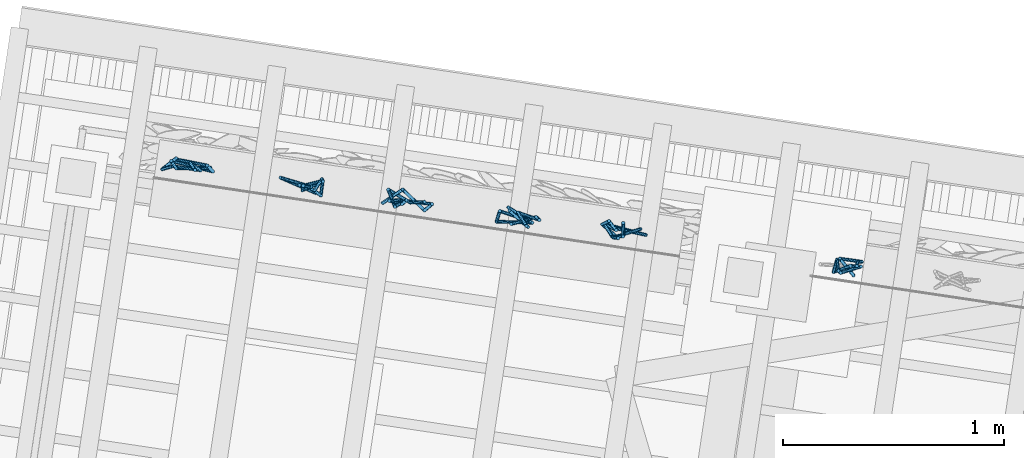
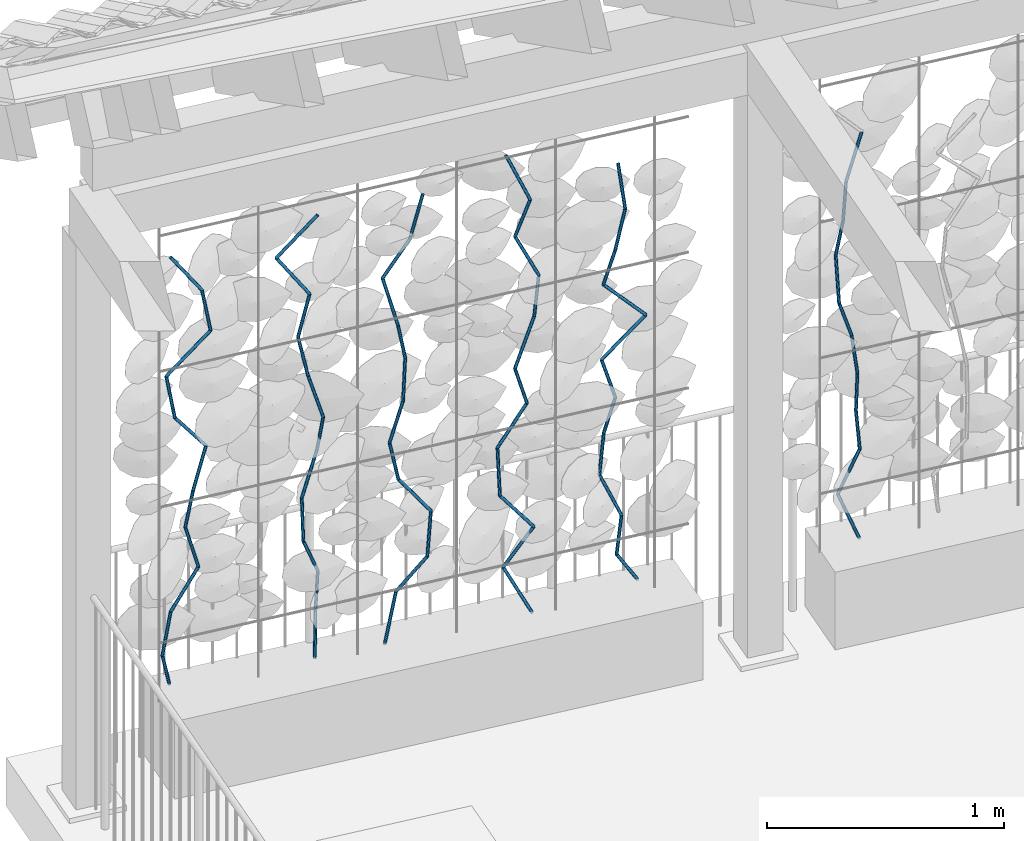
# One storey, part 107 of 131: 65 members, 1 element without a shape of its own.
"""IFC4 building model written with IfcOpenShell, lengths in metres."""

from ifc_helpers import new_model, si_unit, direction, frame, origin_with_axes, place, context, subcontext, project, spatial, circle, extrude, material, material_profile, profile_set, profile_usage, type_object, element, aggregate, save


model = new_model("IFC4")

# Units and contexts
model_context = context("Model", 3, precision=1e-05, world=origin_with_axes(), true_north=direction((0.0, 1.0)))
body_context = subcontext(model_context, "Body", "Model", "MODEL_VIEW")
ifc_project = project(units=[si_unit("VOLUMEUNIT", "CUBIC_METRE"), si_unit("LENGTHUNIT", "METRE"), si_unit("AREAUNIT", "SQUARE_METRE")], contexts=[model_context])

# Site, building, storey
site_placement = place(None, origin_with_axes())
site = spatial("IfcSite", under=ifc_project, at=site_placement, Name="Lares · Rua das Mercês · artigo 4771")
building_placement = place(site_placement, frame((15.0, 9.7, 14.65), z_axis=(0.0, 0.0, 1.0), x_axis=(0.989015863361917, -0.147809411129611, 0.0)))
building = spatial("IfcBuilding", under=site, at=building_placement, Name="Casa Sobreposta")
storey_placement = place(building_placement, origin_with_axes())
storey = spatial("IfcBuildingStorey", under=building, at=storey_placement, Name="00 · Habitação e estacionamento", Elevation=14.65)

# Assembly, members
assembly_placement = place(storey_placement, origin_with_axes())
assembly = element("IfcElementAssembly", 1, at=assembly_placement, inside=storey, Name="Fachada sul e pátio · estrutura e trepadeiras", ObjectType="LIVING_SHADE_TRELLIS", PredefinedType="USERDEFINED")
ifc_material = material(Name="Ramos de trepadeiras", Category="wood")
ifc_material_profile = material_profile(ifc_material, circle(Radius=0.0075))
ifc_profile_set = profile_set([ifc_material_profile], Name="D0.015")
ifc_profile_usage_1 = profile_usage(ifc_profile_set)
member_type = type_object("IfcMemberType", Name="D0.015 / vine_wood", PredefinedType="NOTDEFINED", material=ifc_profile_set)
member_1_placement = place(assembly_placement, frame((-5.61411857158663, 6.58271123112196, 0.35), z_axis=(-0.25595310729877, -0.272623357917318, 0.927450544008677), x_axis=(-0.729045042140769, 0.68446572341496, 0.0)))
member_1 = element("IfcMember", 2, at=member_1_placement, type_object=member_type, material=ifc_profile_usage_1, Name="Trepadeiras · ramo", context=body_context, shape_type="SweptSolid", body=[
    extrude(circle(Radius=0.0075), origin_with_axes(), (0.0, 0.0, 1.0), 0.216077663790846),
])
ifc_profile_usage_2 = profile_usage(ifc_profile_set)
member_2_placement = place(assembly_placement, frame((-5.66942432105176, 6.52380341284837, 0.550401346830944), z_axis=(0.223618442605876, 0.102514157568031, 0.969270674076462), x_axis=(0.416729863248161, -0.909030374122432, 0.0)))
member_2 = element("IfcMember", 3, at=member_2_placement, type_object=member_type, material=ifc_profile_usage_2, Name="Trepadeiras · ramo", context=body_context, shape_type="SweptSolid", body=[
    extrude(circle(Radius=0.0075), origin_with_axes(), (0.0, 0.0, 1.0), 0.206754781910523),
])
ifc_profile_usage_3 = profile_usage(ifc_profile_set)
member_3_placement = place(assembly_placement, frame((-5.62319013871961, 6.54499870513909, 0.750802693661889), z_axis=(0.532575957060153, 3.294163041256e-05, 0.846382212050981), x_axis=(6.18533937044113e-05, -0.999999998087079, 0.0)))
member_3 = element("IfcMember", 4, at=member_3_placement, type_object=member_type, material=ifc_profile_usage_3, Name="Trepadeiras · ramo", context=body_context, shape_type="SweptSolid", body=[
    extrude(circle(Radius=0.0075), origin_with_axes(), (0.0, 0.0, 1.0), 0.236774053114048),
])
ifc_profile_usage_4 = profile_usage(ifc_profile_set)
member_4_placement = place(assembly_placement, frame((-5.49708997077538, 6.54500650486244, 0.951204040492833), z_axis=(-0.239528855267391, 0.119534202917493, 0.963502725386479), x_axis=(0.446525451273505, 0.894770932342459, 0.0)))
member_4 = element("IfcMember", 5, at=member_4_placement, type_object=member_type, material=ifc_profile_usage_4, Name="Trepadeiras · ramo", context=body_context, shape_type="SweptSolid", body=[
    extrude(circle(Radius=0.0075), origin_with_axes(), (0.0, 0.0, 1.0), 0.207992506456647),
])
ifc_profile_usage_5 = profile_usage(ifc_profile_set)
member_5_placement = place(assembly_placement, frame((-5.54691017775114, 6.56986872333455, 1.15160538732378), z_axis=(0.122474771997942, -0.132170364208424, 0.983631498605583), x_axis=(-0.733498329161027, -0.679691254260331, 0.0)))
member_5 = element("IfcMember", 6, at=member_5_placement, type_object=member_type, material=ifc_profile_usage_5, Name="Trepadeiras · ramo", context=body_context, shape_type="SweptSolid", body=[
    extrude(circle(Radius=0.0075), origin_with_axes(), (0.0, 0.0, 1.0), 0.203736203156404),
])
ifc_profile_usage_6 = profile_usage(ifc_profile_set)
member_6_placement = place(assembly_placement, frame((-5.52195763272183, 6.54294083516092, 1.35200673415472), z_axis=(0.313091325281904, 0.099115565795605, 0.944536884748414), x_axis=(0.301808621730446, -0.953368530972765, 0.0)))
member_6 = element("IfcMember", 7, at=member_6_placement, type_object=member_type, material=ifc_profile_usage_6, Name="Trepadeiras · ramo", context=body_context, shape_type="SweptSolid", body=[
    extrude(circle(Radius=0.0075), origin_with_axes(), (0.0, 0.0, 1.0), 0.212168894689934),
])
ifc_profile_usage_7 = profile_usage(ifc_profile_set)
member_7_placement = place(assembly_placement, frame((-5.45552939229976, 6.56397007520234, 1.55240808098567), z_axis=(-0.600870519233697, -0.104344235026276, 0.792506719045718), x_axis=(-0.171094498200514, 0.985254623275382, 0.0)))
member_7 = element("IfcMember", 8, at=member_7_placement, type_object=member_type, material=ifc_profile_usage_7, Name="Trepadeiras · ramo", context=body_context, shape_type="SweptSolid", body=[
    extrude(circle(Radius=0.0075), origin_with_axes(), (0.0, 0.0, 1.0), 0.252870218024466),
])
ifc_profile_usage_8 = profile_usage(ifc_profile_set)
member_8_placement = place(assembly_placement, frame((-5.60747165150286, 6.53758452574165, 1.75280942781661), z_axis=(-0.131534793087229, 0.146118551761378, 0.980483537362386), x_axis=(0.743223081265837, 0.669043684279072, 0.0)))
member_8 = element("IfcMember", 9, at=member_8_placement, type_object=member_type, material=ifc_profile_usage_8, Name="Trepadeiras · ramo", context=body_context, shape_type="SweptSolid", body=[
    extrude(circle(Radius=0.0075), origin_with_axes(), (0.0, 0.0, 1.0), 0.204390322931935),
])
ifc_profile_usage_9 = profile_usage(ifc_profile_set)
member_9_placement = place(assembly_placement, frame((-5.63435609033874, 6.56744974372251, 1.95321077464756), z_axis=(0.69318811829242, -0.0709018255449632, 0.717260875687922), x_axis=(-0.101752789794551, -0.994809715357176, -7.14259946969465e-18)))
member_9 = element("IfcMember", 10, at=member_9_placement, type_object=member_type, material=ifc_profile_usage_9, Name="Trepadeiras · ramo", context=body_context, shape_type="SweptSolid", body=[
    extrude(circle(Radius=0.0075), origin_with_axes(), (0.0, 0.0, 1.0), 0.27939812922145),
])
ifc_profile_usage_10 = profile_usage(ifc_profile_set)
member_10_placement = place(assembly_placement, frame((-5.44068062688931, 6.54763990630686, 2.1536121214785), z_axis=(-0.148451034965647, 0.114497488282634, 0.98226911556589), x_axis=(0.610730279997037, 0.791838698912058, 0.0)))
member_10 = element("IfcMember", 11, at=member_10_placement, type_object=member_type, material=ifc_profile_usage_10, Name="Trepadeiras · ramo", context=body_context, shape_type="SweptSolid", body=[
    extrude(circle(Radius=0.0075), origin_with_axes(), (0.0, 0.0, 1.0), 0.204018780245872),
])
ifc_profile_usage_11 = profile_usage(ifc_profile_set)
member_11_placement = place(assembly_placement, frame((-5.47096742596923, 6.5709995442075, 2.35401346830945), z_axis=(-0.571948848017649, 0.0270050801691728, 0.819844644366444), x_axis=(0.0471633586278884, 0.998887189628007, 0.0)))
member_11 = element("IfcMember", 12, at=member_11_placement, type_object=member_type, material=ifc_profile_usage_11, Name="Trepadeiras · ramo", context=body_context, shape_type="SweptSolid", body=[
    extrude(circle(Radius=0.0075), origin_with_axes(), (0.0, 0.0, 1.0), 0.244438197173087),
])
ifc_profile_usage_12 = profile_usage(ifc_profile_set)
member_12_placement = place(assembly_placement, frame((-4.97365541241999, 6.53247608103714, 0.35), z_axis=(0.113277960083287, 0.251041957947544, 0.961325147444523), x_axis=(0.911501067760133, -0.411297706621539, 0.0)))
member_12 = element("IfcMember", 13, at=member_12_placement, type_object=member_type, material=ifc_profile_usage_12, Name="Trepadeiras · ramo", context=body_context, shape_type="SweptSolid", body=[
    extrude(circle(Radius=0.0075), origin_with_axes(), (0.0, 0.0, 1.0), 0.217037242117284),
])
ifc_profile_usage_13 = profile_usage(ifc_profile_set)
member_13_placement = place(assembly_placement, frame((-4.94906987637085, 6.5869615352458, 0.55864335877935), z_axis=(0.0302040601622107, -0.0488837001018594, 0.998347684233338), x_axis=(-0.850710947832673, -0.525633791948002, -3.76738526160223e-18)))
member_13 = element("IfcMember", 14, at=member_13_placement, type_object=member_type, material=ifc_profile_usage_13, Name="Trepadeiras · ramo", context=body_context, shape_type="SweptSolid", body=[
    extrude(circle(Radius=0.0075), origin_with_axes(), (0.0, 0.0, 1.0), 0.208988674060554),
])
ifc_profile_usage_14 = profile_usage(ifc_profile_set)
member_14_placement = place(assembly_placement, frame((-4.9427575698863, 6.57674539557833, 0.7672867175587), z_axis=(-0.370433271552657, -0.228152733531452, 0.900402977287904), x_axis=(-0.524420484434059, 0.85145942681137, 0.0)))
member_14 = element("IfcMember", 15, at=member_14_placement, type_object=member_type, material=ifc_profile_usage_14, Name="Trepadeiras · ramo", context=body_context, shape_type="SweptSolid", body=[
    extrude(circle(Radius=0.0075), origin_with_axes(), (0.0, 0.0, 1.0), 0.231722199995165),
])
ifc_profile_usage_15 = profile_usage(ifc_profile_set)
member_15_placement = place(assembly_placement, frame((-5.02859518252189, 6.52387734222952, 0.97593007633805), z_axis=(0.00409407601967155, 0.0994936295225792, 0.995029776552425), x_axis=(0.999154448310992, -0.0411143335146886, -5.41693602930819e-19)))
member_15 = element("IfcMember", 16, at=member_15_placement, type_object=member_type, material=ifc_profile_usage_15, Name="Trepadeiras · ramo", context=body_context, shape_type="SweptSolid", body=[
    extrude(circle(Radius=0.0075), origin_with_axes(), (0.0, 0.0, 1.0), 0.209685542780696),
])
ifc_profile_usage_16 = profile_usage(ifc_profile_set)
member_16_placement = place(assembly_placement, frame((-5.02773671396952, 6.54473971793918, 1.1845734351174), z_axis=(0.367459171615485, 0.156102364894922, 0.916845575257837), x_axis=(0.390996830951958, -0.920392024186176, 0.0)))
member_16 = element("IfcMember", 17, at=member_16_placement, type_object=member_type, material=ifc_profile_usage_16, Name="Trepadeiras · ramo", context=body_context, shape_type="SweptSolid", body=[
    extrude(circle(Radius=0.0075), origin_with_axes(), (0.0, 0.0, 1.0), 0.227566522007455),
])
ifc_profile_usage_17 = profile_usage(ifc_profile_set)
member_17_placement = place(assembly_placement, frame((-4.94411530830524, 6.58026339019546, 1.39321679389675), z_axis=(0.00546661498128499, -0.307535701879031, 0.951520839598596), x_axis=(-0.999842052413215, -0.0177727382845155, 0.0)))
member_17 = element("IfcMember", 18, at=member_17_placement, type_object=member_type, material=ifc_profile_usage_17, Name="Trepadeiras · ramo", context=body_context, shape_type="SweptSolid", body=[
    extrude(circle(Radius=0.0075), origin_with_axes(), (0.0, 0.0, 1.0), 0.219273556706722),
])
ifc_profile_usage_18 = profile_usage(ifc_profile_set)
member_18_placement = place(assembly_placement, frame((-4.94291662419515, 6.51282894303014, 1.6018601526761), z_axis=(-0.262504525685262, 0.137652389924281, 0.955061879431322), x_axis=(0.464404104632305, 0.885623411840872, 0.0)))
member_18 = element("IfcMember", 19, at=member_18_placement, type_object=member_type, material=ifc_profile_usage_18, Name="Trepadeiras · ramo", context=body_context, shape_type="SweptSolid", body=[
    extrude(circle(Radius=0.0075), origin_with_axes(), (0.0, 0.0, 1.0), 0.218460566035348),
])
ifc_profile_usage_19 = profile_usage(ifc_profile_set)
member_19_placement = place(assembly_placement, frame((-5.00026351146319, 6.54290056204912, 1.81050351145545), z_axis=(-0.20895710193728, 0.00814681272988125, 0.977890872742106), x_axis=(0.0389583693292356, 0.999240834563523, 0.0)))
member_19 = element("IfcMember", 20, at=member_19_placement, type_object=member_type, material=ifc_profile_usage_19, Name="Trepadeiras · ramo", context=body_context, shape_type="SweptSolid", body=[
    extrude(circle(Radius=0.0075), origin_with_axes(), (0.0, 0.0, 1.0), 0.213360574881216),
])
ifc_profile_usage_20 = profile_usage(ifc_profile_set)
member_20_placement = place(assembly_placement, frame((-5.04484671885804, 6.54463877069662, 2.0191468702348), z_axis=(0.246434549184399, 0.00303803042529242, 0.969154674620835), x_axis=(0.0123270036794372, -0.999924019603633, 0.0)))
member_20 = element("IfcMember", 21, at=member_20_placement, type_object=member_type, material=ifc_profile_usage_20, Name="Trepadeiras · ramo", context=body_context, shape_type="SweptSolid", body=[
    extrude(circle(Radius=0.0075), origin_with_axes(), (0.0, 0.0, 1.0), 0.215283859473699),
])
ifc_profile_usage_21 = profile_usage(ifc_profile_set)
member_21_placement = place(assembly_placement, frame((-4.99179333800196, 6.54529280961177, 2.22779022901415), z_axis=(-0.565768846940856, 0.0803060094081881, 0.82064398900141), x_axis=(0.140532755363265, 0.990076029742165, 0.0)))
member_21 = element("IfcMember", 22, at=member_21_placement, type_object=member_type, material=ifc_profile_usage_21, Name="Trepadeiras · ramo", context=body_context, shape_type="SweptSolid", body=[
    extrude(circle(Radius=0.0075), origin_with_axes(), (0.0, 0.0, 1.0), 0.254243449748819),
])
ifc_profile_usage_22 = profile_usage(ifc_profile_set)
member_22_placement = place(assembly_placement, frame((-5.13563636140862, 6.56571008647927, 2.4364335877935), z_axis=(0.622808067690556, -0.168397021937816, 0.764037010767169), x_axis=(-0.261010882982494, -0.965335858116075, 0.0)))
member_22 = element("IfcMember", 23, at=member_22_placement, type_object=member_type, material=ifc_profile_usage_22, Name="Trepadeiras · ramo", context=body_context, shape_type="SweptSolid", body=[
    extrude(circle(Radius=0.0075), origin_with_axes(), (0.0, 0.0, 1.0), 0.273080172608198),
])
ifc_profile_usage_23 = profile_usage(ifc_profile_set)
member_23_placement = place(assembly_placement, frame((-4.66147928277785, 6.52019842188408, 0.35), z_axis=(0.347230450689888, 0.318450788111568, 0.882054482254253), x_axis=(0.675904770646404, -0.736988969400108, 0.0)))
member_23 = element("IfcMember", 24, at=member_23_placement, type_object=member_type, material=ifc_profile_usage_23, Name="Trepadeiras · ramo", context=body_context, shape_type="SweptSolid", body=[
    extrude(circle(Radius=0.0075), origin_with_axes(), (0.0, 0.0, 1.0), 0.232364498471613),
])
ifc_profile_usage_24 = profile_usage(ifc_profile_set)
member_24_placement = place(assembly_placement, frame((-4.58079525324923, 6.59419507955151, 0.554958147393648), z_axis=(0.452894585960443, -0.319221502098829, 0.832456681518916), x_axis=(-0.576118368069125, -0.817366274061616, 0.0)))
member_24 = element("IfcMember", 25, at=member_24_placement, type_object=member_type, material=ifc_profile_usage_24, Name="Trepadeiras · ramo", context=body_context, shape_type="SweptSolid", body=[
    extrude(circle(Radius=0.0075), origin_with_axes(), (0.0, 0.0, 1.0), 0.246208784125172),
])
ifc_profile_usage_25 = profile_usage(ifc_profile_set)
member_25_placement = place(assembly_placement, frame((-4.46928862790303, 6.51559994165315, 0.759916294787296), z_axis=(0.140844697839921, 0.157390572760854, 0.977441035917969), x_axis=(0.745190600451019, -0.666851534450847, 0.0)))
member_25 = element("IfcMember", 26, at=member_25_placement, type_object=member_type, material=ifc_profile_usage_25, Name="Trepadeiras · ramo", context=body_context, shape_type="SweptSolid", body=[
    extrude(circle(Radius=0.0075), origin_with_axes(), (0.0, 0.0, 1.0), 0.209688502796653),
])
ifc_profile_usage_26 = profile_usage(ifc_profile_set)
member_26_placement = place(assembly_placement, frame((-4.43975511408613, 6.54860293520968, 0.964874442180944), z_axis=(-0.589789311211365, -0.0157253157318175, 0.807404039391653), x_axis=(-0.0266531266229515, 0.9996447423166, 0.0)))
member_26 = element("IfcMember", 27, at=member_26_placement, type_object=member_type, material=ifc_profile_usage_26, Name="Trepadeiras · ramo", context=body_context, shape_type="SweptSolid", body=[
    extrude(circle(Radius=0.0075), origin_with_axes(), (0.0, 0.0, 1.0), 0.25384830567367),
])
ifc_profile_usage_27 = profile_usage(ifc_profile_set)
member_27_placement = place(assembly_placement, frame((-4.58947213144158, 6.54461109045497, 1.16983258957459), z_axis=(-0.208706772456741, -0.0466453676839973, 0.976865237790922), x_axis=(-0.218115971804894, 0.975922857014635, 0.0)))
member_27 = element("IfcMember", 28, at=member_27_placement, type_object=member_type, material=ifc_profile_usage_27, Name="Trepadeiras · ramo", context=body_context, shape_type="SweptSolid", body=[
    extrude(circle(Radius=0.0075), origin_with_axes(), (0.0, 0.0, 1.0), 0.209812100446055),
])
ifc_profile_usage_28 = profile_usage(ifc_profile_set)
member_28_placement = place(assembly_placement, frame((-4.63326133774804, 6.53482432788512, 1.37479073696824), z_axis=(0.277794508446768, -0.0278912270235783, 0.960235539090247), x_axis=(-0.0999001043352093, -0.994997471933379, 0.0)))
member_28 = element("IfcMember", 29, at=member_28_placement, type_object=member_type, material=ifc_profile_usage_28, Name="Trepadeiras · ramo", context=body_context, shape_type="SweptSolid", body=[
    extrude(circle(Radius=0.0075), origin_with_axes(), (0.0, 0.0, 1.0), 0.213445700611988),
])
ifc_profile_usage_29 = profile_usage(ifc_profile_set)
member_29_placement = place(assembly_placement, frame((-4.57396729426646, 6.52887106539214, 1.57974888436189), z_axis=(0.0838687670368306, 0.0956181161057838, 0.991878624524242), x_axis=(0.751785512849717, -0.659407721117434, 0.0)))
member_29 = element("IfcMember", 30, at=member_29_placement, type_object=member_type, material=ifc_profile_usage_29, Name="Trepadeiras · ramo", context=body_context, shape_type="SweptSolid", body=[
    extrude(circle(Radius=0.0075), origin_with_axes(), (0.0, 0.0, 1.0), 0.206636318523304),
])
ifc_profile_usage_30 = profile_usage(ifc_profile_set)
member_30_placement = place(assembly_placement, frame((-4.55663696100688, 6.54862924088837, 1.78470703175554), z_axis=(-0.222276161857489, -0.169561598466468, 0.96012612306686), x_axis=(-0.606514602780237, 0.795072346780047, 0.0)))
member_30 = element("IfcMember", 31, at=member_30_placement, type_object=member_type, material=ifc_profile_usage_30, Name="Trepadeiras · ramo", context=body_context, shape_type="SweptSolid", body=[
    extrude(circle(Radius=0.0075), origin_with_axes(), (0.0, 0.0, 1.0), 0.213470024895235),
])
ifc_profile_usage_31 = profile_usage(ifc_profile_set)
member_31_placement = place(assembly_placement, frame((-4.60408625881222, 6.51243292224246, 1.98966517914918), z_axis=(-0.187183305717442, 0.32523361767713, 0.926922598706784), x_axis=(0.866705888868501, 0.498819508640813, 0.0)))
member_31 = element("IfcMember", 32, at=member_31_placement, type_object=member_type, material=ifc_profile_usage_31, Name="Trepadeiras · ramo", context=body_context, shape_type="SweptSolid", body=[
    extrude(circle(Radius=0.0075), origin_with_axes(), (0.0, 0.0, 1.0), 0.221116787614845),
])
ifc_profile_usage_32 = profile_usage(ifc_profile_set)
member_32_placement = place(assembly_placement, frame((-4.64547563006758, 6.58434753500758, 2.19462332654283), z_axis=(0.456516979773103, -0.185486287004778, 0.870164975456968), x_axis=(-0.37642279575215, -0.926447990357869, 0.0)))
member_32 = element("IfcMember", 33, at=member_32_placement, type_object=member_type, material=ifc_profile_usage_32, Name="Trepadeiras · ramo", context=body_context, shape_type="SweptSolid", body=[
    extrude(circle(Radius=0.0075), origin_with_axes(), (0.0, 0.0, 1.0), 0.235539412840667),
])
ifc_profile_usage_33 = profile_usage(ifc_profile_set)
member_33_placement = place(assembly_placement, frame((-4.53794788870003, 6.54065820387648, 2.39958147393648), z_axis=(0.294258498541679, 0.0599949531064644, 0.953840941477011), x_axis=(0.199775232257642, -0.979841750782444, 0.0)))
member_33 = element("IfcMember", 34, at=member_33_placement, type_object=member_type, material=ifc_profile_usage_33, Name="Trepadeiras · ramo", context=body_context, shape_type="SweptSolid", body=[
    extrude(circle(Radius=0.0075), origin_with_axes(), (0.0, 0.0, 1.0), 0.214876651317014),
])
ifc_profile_usage_34 = profile_usage(ifc_profile_set)
member_34_placement = place(assembly_placement, frame((-3.99461201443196, 6.50983102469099, 0.35), z_axis=(-0.414408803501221, 0.303237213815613, 0.858086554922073), x_axis=(0.590524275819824, 0.807019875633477, 0.0)))
member_34 = element("IfcMember", 35, at=member_34_placement, type_object=member_type, material=ifc_profile_usage_34, Name="Trepadeiras · ramo", context=body_context, shape_type="SweptSolid", body=[
    extrude(circle(Radius=0.0075), origin_with_axes(), (0.0, 0.0, 1.0), 0.248352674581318),
])
ifc_profile_usage_35 = profile_usage(ifc_profile_set)
member_35_placement = place(assembly_placement, frame((-4.09753154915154, 6.58514079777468, 0.563108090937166), z_axis=(0.474460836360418, -0.211116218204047, 0.854585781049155), x_axis=(-0.406531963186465, -0.913636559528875, 0.0)))
member_35 = element("IfcMember", 36, at=member_35_placement, type_object=member_type, material=ifc_profile_usage_35, Name="Trepadeiras · ramo", context=body_context, shape_type="SweptSolid", body=[
    extrude(circle(Radius=0.0075), origin_with_axes(), (0.0, 0.0, 1.0), 0.249370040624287),
])
ifc_profile_usage_36 = profile_usage(ifc_profile_set)
member_36_placement = place(assembly_placement, frame((-3.97921523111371, 6.53249473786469, 0.776216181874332), z_axis=(-0.601453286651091, -0.0721014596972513, 0.795647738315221), x_axis=(-0.119026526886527, 0.992891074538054, 0.0)))
member_36 = element("IfcMember", 37, at=member_36_placement, type_object=member_type, material=ifc_profile_usage_36, Name="Trepadeiras · ramo", context=body_context, shape_type="SweptSolid", body=[
    extrude(circle(Radius=0.0075), origin_with_axes(), (0.0, 0.0, 1.0), 0.267842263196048),
])
ifc_profile_usage_37 = profile_usage(ifc_profile_set)
member_37_placement = place(assembly_placement, frame((-4.14030984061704, 6.51318291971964, 0.989324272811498), z_axis=(0.035780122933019, 0.225435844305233, 0.97360077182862), x_axis=(0.987637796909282, -0.156753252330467, 0.0)))
member_37 = element("IfcMember", 38, at=member_37_placement, type_object=member_type, material=ifc_profile_usage_37, Name="Trepadeiras · ramo", context=body_context, shape_type="SweptSolid", body=[
    extrude(circle(Radius=0.0075), origin_with_axes(), (0.0, 0.0, 1.0), 0.218886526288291),
])
ifc_profile_usage_38 = profile_usage(ifc_profile_set)
member_38_placement = place(assembly_placement, frame((-4.13247805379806, 6.56252778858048, 1.20243236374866), z_axis=(0.506159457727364, -0.0863078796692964, 0.858110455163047), x_axis=(-0.168089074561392, -0.985771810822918, 0.0)))
member_38 = element("IfcMember", 39, at=member_38_placement, type_object=member_type, material=ifc_profile_usage_38, Name="Trepadeiras · ramo", context=body_context, shape_type="SweptSolid", body=[
    extrude(circle(Radius=0.0075), origin_with_axes(), (0.0, 0.0, 1.0), 0.248345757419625),
])
ifc_profile_usage_39 = profile_usage(ifc_profile_set)
member_39_placement = place(assembly_placement, frame((-4.00677549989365, 6.54109359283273, 1.41554045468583), z_axis=(-0.292518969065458, -0.127032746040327, 0.947784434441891), x_axis=(-0.398332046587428, 0.917241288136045, 0.0)))
member_39 = element("IfcMember", 40, at=member_39_placement, type_object=member_type, material=ifc_profile_usage_39, Name="Trepadeiras · ramo", context=body_context, shape_type="SweptSolid", body=[
    extrude(circle(Radius=0.0075), origin_with_axes(), (0.0, 0.0, 1.0), 0.22484869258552),
])
ifc_profile_usage_40 = profile_usage(ifc_profile_set)
member_40_placement = place(assembly_placement, frame((-4.07254800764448, 6.51253044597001, 1.628648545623), z_axis=(0.439078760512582, 0.196132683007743, 0.876779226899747), x_axis=(0.407850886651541, -0.9130485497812, 0.0)))
member_40 = element("IfcMember", 41, at=member_40_placement, type_object=member_type, material=ifc_profile_usage_40, Name="Trepadeiras · ramo", context=body_context, shape_type="SweptSolid", body=[
    extrude(circle(Radius=0.0075), origin_with_axes(), (0.0, 0.0, 1.0), 0.243057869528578),
])
ifc_profile_usage_41 = profile_usage(ifc_profile_set)
member_41_placement = place(assembly_placement, frame((-3.96582645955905, 6.5602020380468, 1.84175663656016), z_axis=(0.0752129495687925, -0.0496705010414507, 0.995929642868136), x_axis=(-0.551073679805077, -0.834456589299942, 0.0)))
member_41 = element("IfcMember", 42, at=member_41_placement, type_object=member_type, material=ifc_profile_usage_41, Name="Trepadeiras · ramo", context=body_context, shape_type="SweptSolid", body=[
    extrude(circle(Radius=0.0075), origin_with_axes(), (0.0, 0.0, 1.0), 0.213979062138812),
])
ifc_profile_usage_42 = profile_usage(ifc_profile_set)
member_42_placement = place(assembly_placement, frame((-3.94973246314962, 6.54957359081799, 2.05486472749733), z_axis=(-0.425041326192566, 0.0791766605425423, 0.901704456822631), x_axis=(0.183129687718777, 0.983088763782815, 0.0)))
member_42 = element("IfcMember", 43, at=member_42_placement, type_object=member_type, material=ifc_profile_usage_42, Name="Trepadeiras · ramo", context=body_context, shape_type="SweptSolid", body=[
    extrude(circle(Radius=0.0075), origin_with_axes(), (0.0, 0.0, 1.0), 0.23633917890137),
])
ifc_profile_usage_43 = profile_usage(ifc_profile_set)
member_43_placement = place(assembly_placement, frame((-4.05018638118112, 6.56828613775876, 2.2679728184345), z_axis=(0.210905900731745, -0.242318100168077, 0.94699558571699), x_axis=(-0.754305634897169, -0.656523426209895, 0.0)))
member_43 = element("IfcMember", 44, at=member_43_placement, type_object=member_type, material=ifc_profile_usage_43, Name="Trepadeiras · ramo", context=body_context, shape_type="SweptSolid", body=[
    extrude(circle(Radius=0.0075), origin_with_axes(), (0.0, 0.0, 1.0), 0.225035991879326),
])
ifc_profile_usage_44 = profile_usage(ifc_profile_set)
member_44_placement = place(assembly_placement, frame((-4.00272496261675, 6.51375584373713, 2.48108090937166), z_axis=(-0.368107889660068, 0.243592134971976, 0.897306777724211), x_axis=(0.551853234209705, 0.83394124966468, 0.0)))
member_44 = element("IfcMember", 45, at=member_44_placement, type_object=member_type, material=ifc_profile_usage_44, Name="Trepadeiras · ramo", context=body_context, shape_type="SweptSolid", body=[
    extrude(circle(Radius=0.0075), origin_with_axes(), (0.0, 0.0, 1.0), 0.237497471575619),
])
ifc_profile_usage_45 = profile_usage(ifc_profile_set)
member_45_placement = place(assembly_placement, frame((-3.49058830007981, 6.5769331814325, 0.35), z_axis=(-0.497509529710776, -0.241128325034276, 0.833271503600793), x_axis=(-0.436144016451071, 0.899876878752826, 0.0)))
member_45 = element("IfcMember", 46, at=member_45_placement, type_object=member_type, material=ifc_profile_usage_45, Name="Trepadeiras · ramo", context=body_context, shape_type="SweptSolid", body=[
    extrude(circle(Radius=0.0075), origin_with_axes(), (0.0, 0.0, 1.0), 0.235287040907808),
])
ifc_profile_usage_46 = profile_usage(ifc_profile_set)
member_46_placement = place(assembly_placement, frame((-3.60764584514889, 6.52019881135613, 0.54605798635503), z_axis=(0.113873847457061, 0.00295026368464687, 0.993490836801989), x_axis=(0.0258994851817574, -0.999664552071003, 0.0)))
member_46 = element("IfcMember", 47, at=member_46_placement, type_object=member_type, material=ifc_profile_usage_46, Name="Trepadeiras · ramo", context=body_context, shape_type="SweptSolid", body=[
    extrude(circle(Radius=0.0075), origin_with_axes(), (0.0, 0.0, 1.0), 0.197342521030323),
])
ifc_profile_usage_47 = profile_usage(ifc_profile_set)
member_47_placement = place(assembly_placement, frame((-3.58517369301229, 6.52078102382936, 0.742115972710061), z_axis=(-0.369695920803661, 0.233431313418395, 0.899352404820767), x_axis=(0.533893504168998, 0.845551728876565, 0.0)))
member_47 = element("IfcMember", 48, at=member_47_placement, type_object=member_type, material=ifc_profile_usage_47, Name="Trepadeiras · ramo", context=body_context, shape_type="SweptSolid", body=[
    extrude(circle(Radius=0.0075), origin_with_axes(), (0.0, 0.0, 1.0), 0.217999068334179),
])
ifc_profile_usage_48 = profile_usage(ifc_profile_set)
member_48_placement = place(assembly_placement, frame((-3.66576705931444, 6.5716688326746, 0.938173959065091), z_axis=(0.138799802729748, 0.0971142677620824, 0.985547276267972), x_axis=(0.573281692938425, -0.819358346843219, -1.00923604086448e-17)))
member_48 = element("IfcMember", 49, at=member_48_placement, type_object=member_type, material=ifc_profile_usage_48, Name="Trepadeiras · ramo", context=body_context, shape_type="SweptSolid", body=[
    extrude(circle(Radius=0.0075), origin_with_axes(), (0.0, 0.0, 1.0), 0.198933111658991),
])
ifc_profile_usage_49 = profile_usage(ifc_profile_set)
member_49_placement = place(assembly_placement, frame((-3.63815518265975, 6.59098807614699, 1.13423194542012), z_axis=(0.190810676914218, -0.174664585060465, 0.965962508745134), x_axis=(-0.675209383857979, -0.737626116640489, 0.0)))
member_49 = element("IfcMember", 50, at=member_49_placement, type_object=member_type, material=ifc_profile_usage_49, Name="Trepadeiras · ramo", context=body_context, shape_type="SweptSolid", body=[
    extrude(circle(Radius=0.0075), origin_with_axes(), (0.0, 0.0, 1.0), 0.202966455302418),
])
ifc_profile_usage_50 = profile_usage(ifc_profile_set)
member_50_placement = place(assembly_placement, frame((-3.59942701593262, 6.5555370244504, 1.33028993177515), z_axis=(-0.270469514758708, 0.0949057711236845, 0.958039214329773), x_axis=(0.331100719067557, 0.943595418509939, 0.0)))
member_50 = element("IfcMember", 51, at=member_50_placement, type_object=member_type, material=ifc_profile_usage_50, Name="Trepadeiras · ramo", context=body_context, shape_type="SweptSolid", body=[
    extrude(circle(Radius=0.0075), origin_with_axes(), (0.0, 0.0, 1.0), 0.204645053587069),
])
ifc_profile_usage_51 = profile_usage(ifc_profile_set)
member_51_placement = place(assembly_placement, frame((-3.65477726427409, 6.57495902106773, 1.52634791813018), z_axis=(0.699129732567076, -0.0781554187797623, 0.710710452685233), x_axis=(-0.111097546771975, -0.9938095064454, 0.0)))
member_51 = element("IfcMember", 52, at=member_51_placement, type_object=member_type, material=ifc_profile_usage_51, Name="Trepadeiras · ramo", context=body_context, shape_type="SweptSolid", body=[
    extrude(circle(Radius=0.0075), origin_with_axes(), (0.0, 0.0, 1.0), 0.275861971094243),
])
ifc_profile_usage_52 = profile_usage(ifc_profile_set)
member_52_placement = place(assembly_placement, frame((-3.46191395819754, 6.55339891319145, 1.72240590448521), z_axis=(-0.691554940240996, 0.0447072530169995, 0.720938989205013), x_axis=(0.0645127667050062, 0.997916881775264, 0.0)))
member_52 = element("IfcMember", 53, at=member_52_placement, type_object=member_type, material=ifc_profile_usage_52, Name="Trepadeiras · ramo", context=body_context, shape_type="SweptSolid", body=[
    extrude(circle(Radius=0.0075), origin_with_axes(), (0.0, 0.0, 1.0), 0.271948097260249),
])
ifc_profile_usage_53 = profile_usage(ifc_profile_set)
member_53_placement = place(assembly_placement, frame((-3.649981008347, 6.56555696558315, 1.91846389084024), z_axis=(0.183669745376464, -0.20577426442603, 0.961208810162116), x_axis=(-0.746040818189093, -0.665900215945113, 0.0)))
member_53 = element("IfcMember", 54, at=member_53_placement, type_object=member_type, material=ifc_profile_usage_53, Name="Trepadeiras · ramo", context=body_context, shape_type="SweptSolid", body=[
    extrude(circle(Radius=0.0075), origin_with_axes(), (0.0, 0.0, 1.0), 0.203970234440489),
])
ifc_profile_usage_54 = profile_usage(ifc_profile_set)
member_54_placement = place(assembly_placement, frame((-3.61251784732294, 6.52358514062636, 2.11452187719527), z_axis=(0.23842273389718, 0.0377894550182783, 0.970425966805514), x_axis=(0.156543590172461, -0.987671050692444, 0.0)))
member_54 = element("IfcMember", 55, at=member_54_placement, type_object=member_type, material=ifc_profile_usage_54, Name="Trepadeiras · ramo", context=body_context, shape_type="SweptSolid", body=[
    extrude(circle(Radius=0.0075), origin_with_axes(), (0.0, 0.0, 1.0), 0.202032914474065),
])
ifc_profile_usage_55 = profile_usage(ifc_profile_set)
member_55_placement = place(assembly_placement, frame((-3.56434860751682, 6.53121985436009, 2.3105798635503), z_axis=(-0.0413901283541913, 0.297697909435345, 0.953762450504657), x_axis=(0.990472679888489, 0.13770936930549, 0.0)))
member_55 = element("IfcMember", 56, at=member_55_placement, type_object=member_type, material=ifc_profile_usage_55, Name="Trepadeiras · ramo", context=body_context, shape_type="SweptSolid", body=[
    extrude(circle(Radius=0.0075), origin_with_axes(), (0.0, 0.0, 1.0), 0.205562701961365),
])
ifc_profile_usage_56 = profile_usage(ifc_profile_set)
member_56_placement = place(assembly_placement, frame((-2.50782800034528, 6.51145908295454, 0.35), z_axis=(-0.320876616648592, 0.286835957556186, 0.902642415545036), x_axis=(0.666453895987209, 0.745546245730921, 0.0)))
member_56 = element("IfcMember", 57, at=member_56_placement, type_object=member_type, material=ifc_profile_usage_56, Name="Trepadeiras · ramo", context=body_context, shape_type="SweptSolid", body=[
    extrude(circle(Radius=0.0075), origin_with_axes(), (0.0, 0.0, 1.0), 0.228543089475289),
])
ifc_profile_usage_57 = profile_usage(ifc_profile_set)
member_57_placement = place(assembly_placement, frame((-2.58116213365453, 6.57701345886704, 0.5562926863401), z_axis=(0.437839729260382, 0.0047956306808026, 0.899040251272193), x_axis=(0.0109522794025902, -0.999940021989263, 0.0)))
member_57 = element("IfcMember", 58, at=member_57_placement, type_object=member_type, material=ifc_profile_usage_57, Name="Trepadeiras · ramo", context=body_context, shape_type="SweptSolid", body=[
    extrude(circle(Radius=0.0075), origin_with_axes(), (0.0, 0.0, 1.0), 0.22945878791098),
])
ifc_profile_usage_58 = profile_usage(ifc_profile_set)
member_58_placement = place(assembly_placement, frame((-2.48069596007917, 6.57811385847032, 0.762585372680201), z_axis=(-0.0918985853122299, -0.0196133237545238, 0.995575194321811), x_axis=(-0.208722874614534, 0.977974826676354, 0.0)))
member_58 = element("IfcMember", 59, at=member_58_placement, type_object=member_type, material=ifc_profile_usage_58, Name="Trepadeiras · ramo", context=body_context, shape_type="SweptSolid", body=[
    extrude(circle(Radius=0.0075), origin_with_axes(), (0.0, 0.0, 1.0), 0.207209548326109),
])
ifc_profile_usage_59 = profile_usage(ifc_profile_set)
member_59_placement = place(assembly_placement, frame((-2.49973822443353, 6.57404979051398, 0.968878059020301), z_axis=(-0.00219393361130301, -0.0891972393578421, 0.996011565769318), x_axis=(-0.99969764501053, 0.0245889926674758, -3.02574217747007e-19)))
member_59 = element("IfcMember", 60, at=member_59_placement, type_object=member_type, material=ifc_profile_usage_59, Name="Trepadeiras · ramo", context=body_context, shape_type="SweptSolid", body=[
    extrude(circle(Radius=0.0075), origin_with_axes(), (0.0, 0.0, 1.0), 0.207118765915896),
])
ifc_profile_usage_60 = profile_usage(ifc_profile_set)
member_60_placement = place(assembly_placement, frame((-2.5001926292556, 6.55557536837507, 1.1751707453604), z_axis=(-0.137805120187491, -0.0172154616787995, 0.990309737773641), x_axis=(-0.123962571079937, 0.992286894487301, 0.0)))
member_60 = element("IfcMember", 61, at=member_60_placement, type_object=member_type, material=ifc_profile_usage_60, Name="Trepadeiras · ramo", context=body_context, shape_type="SweptSolid", body=[
    extrude(circle(Radius=0.0075), origin_with_axes(), (0.0, 0.0, 1.0), 0.208311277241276),
])
ifc_profile_usage_61 = profile_usage(ifc_profile_set)
member_61_placement = place(assembly_placement, frame((-2.52889898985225, 6.55198919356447, 1.3814634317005), z_axis=(-0.321798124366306, -0.175495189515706, 0.930401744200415), x_axis=(-0.478786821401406, 0.877931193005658, 0.0)))
member_61 = element("IfcMember", 62, at=member_61_placement, type_object=member_type, material=ifc_profile_usage_61, Name="Trepadeiras · ramo", context=body_context, shape_type="SweptSolid", body=[
    extrude(circle(Radius=0.0075), origin_with_axes(), (0.0, 0.0, 1.0), 0.221724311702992),
])
ifc_profile_usage_62 = profile_usage(ifc_profile_set)
member_62_placement = place(assembly_placement, frame((-2.60024945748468, 6.51307764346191, 1.5877561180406), z_axis=(0.0361142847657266, 0.273442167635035, 0.96121024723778), x_axis=(0.991390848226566, -0.130935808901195, 0.0)))
member_62 = element("IfcMember", 63, at=member_62_placement, type_object=member_type, material=ifc_profile_usage_62, Name="Trepadeiras · ramo", context=body_context, shape_type="SweptSolid", body=[
    extrude(circle(Radius=0.0075), origin_with_axes(), (0.0, 0.0, 1.0), 0.214617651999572),
])
ifc_profile_usage_63 = profile_usage(ifc_profile_set)
member_63_placement = place(assembly_placement, frame((-2.59249869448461, 6.57176315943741, 1.7940488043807), z_axis=(0.0643844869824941, -0.235396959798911, 0.969764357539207), x_axis=(-0.964570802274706, -0.263824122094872, 0.0)))
member_63 = element("IfcMember", 64, at=member_63_placement, type_object=member_type, material=ifc_profile_usage_63, Name="Trepadeiras · ramo", context=body_context, shape_type="SweptSolid", body=[
    extrude(circle(Radius=0.0075), origin_with_axes(), (0.0, 0.0, 1.0), 0.212724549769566),
])
ifc_profile_usage_64 = profile_usage(ifc_profile_set)
member_64_placement = place(assembly_placement, frame((-2.57880253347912, 6.52168844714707, 2.0003414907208), z_axis=(0.053188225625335, -0.0352057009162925, 0.997963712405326), x_axis=(-0.551949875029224, -0.833877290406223, 0.0)))
member_64 = element("IfcMember", 65, at=member_64_placement, type_object=member_type, material=ifc_profile_usage_64, Name="Trepadeiras · ramo", context=body_context, shape_type="SweptSolid", body=[
    extrude(circle(Radius=0.0075), origin_with_axes(), (0.0, 0.0, 1.0), 0.206713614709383),
])
ifc_profile_usage_65 = profile_usage(ifc_profile_set)
member_65_placement = place(assembly_placement, frame((-2.56780780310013, 6.51441094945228, 2.2066341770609), z_axis=(0.384138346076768, 0.185268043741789, 0.904496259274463), x_axis=(0.434410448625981, -0.900715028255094, 0.0)))
member_65 = element("IfcMember", 66, at=member_65_placement, type_object=member_type, material=ifc_profile_usage_65, Name="Trepadeiras · ramo", context=body_context, shape_type="SweptSolid", body=[
    extrude(circle(Radius=0.0075), origin_with_axes(), (0.0, 0.0, 1.0), 0.228074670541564),
])
aggregate(assembly, [member_1, member_2, member_3, member_4, member_5, member_6, member_7, member_8, member_9, member_10, member_11, member_12, member_13, member_14, member_15, member_16, member_17, member_18, member_19, member_20, member_21, member_22, member_23, member_24, member_25, member_26, member_27, member_28, member_29, member_30, member_31, member_32, member_33, member_34, member_35, member_36, member_37, member_38, member_39, member_40, member_41, member_42, member_43, member_44, member_45, member_46, member_47, member_48, member_49, member_50, member_51, member_52, member_53, member_54, member_55, member_56, member_57, member_58, member_59, member_60, member_61, member_62, member_63, member_64, member_65])

save(model, "model.ifc")
